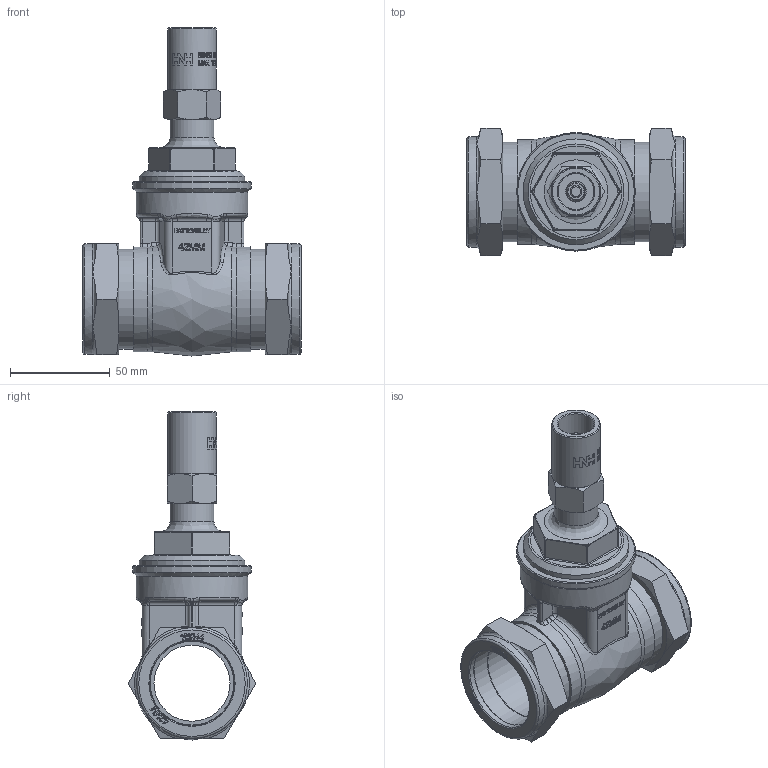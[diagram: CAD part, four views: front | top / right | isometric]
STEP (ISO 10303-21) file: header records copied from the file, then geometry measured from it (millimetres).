
FILE_DESCRIPTION((''),'2;1');
FILE_NAME('P:\Fastrack\53972_CRANE 3D\Gate Valves\Work Space\Lockshield\30CLS_42mm\30CLS_42mm.stp','2011-03-09T15:07:32',('btaylor'),(''),'Autodesk Inventor 2008','Autodesk Inventor 2008','');
FILE_SCHEMA(('AUTOMOTIVE_DESIGN { 1 0 10303 214 1 1 1 1 }'));
Length unit declared in the file: millimetre
Products named in the file (1): 30CLS_42mm
Bounding box: 109.56 x 64.09 x 164.5 mm (x, y, z)
Volume: 221446.5 mm3; surface area: 64715.6 mm2
Topology: 1 solids, 3 shells, 1275 faces, 3321 edges, 2149 vertices
Faces by surface type: plane 625, bspline 431, cylinder 134, cone 67, torus 18
Full cylindrical faces by diameter (mm): 6 x1, 10 x1, 10.4 x1, 15.2 x1, 18 x1, 20.376 x1, 22 x1, 24.5 x1, 38.15 x1, 42 x2, 42.3 x4, 50 x4, 52.6 x2, 53 x1, 55.4 x2, 56 x1, 59.5 x1
Entity records: 98059 total; most frequent: CARTESIAN_POINT 69011, ORIENTED_EDGE 6466, DIRECTION 4347, EDGE_CURVE 3233, VERTEX_POINT 2123, VECTOR 1715, LINE 1715, EDGE_LOOP 1438
